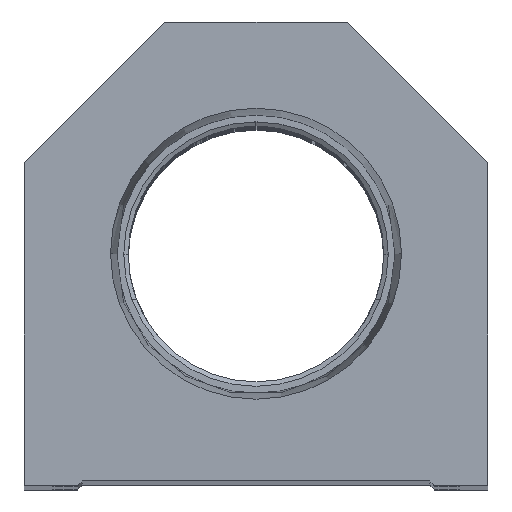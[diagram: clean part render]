
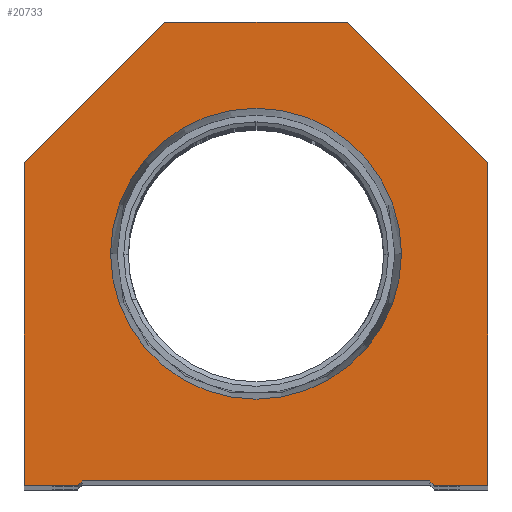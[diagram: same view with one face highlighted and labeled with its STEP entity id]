
A CAD part, top view. The second image highlights one B-rep face of the part: STEP entity #20733.
In plain terms, the highlighted planar face has unit normal (0, 0, 1).
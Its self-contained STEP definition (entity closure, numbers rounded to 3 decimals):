
#807 = EDGE_CURVE ( 'NONE', #5301, #23950, #7303, .T. ) ;
#1216 = LINE ( 'NONE', #7305, #10284 ) ;
#1510 = EDGE_CURVE ( 'NONE', #10335, #10839, #10589, .T. ) ;
#1544 = PLANE ( 'NONE',  #25420 ) ;
#1621 = VERTEX_POINT ( 'NONE', #14212 ) ;
#2461 = VECTOR ( 'NONE', #10367, 1000. ) ;
#2657 = EDGE_CURVE ( 'NONE', #7465, #14243, #6985, .T. ) ;
#3222 = VECTOR ( 'NONE', #13435, 1000. ) ;
#3355 = ORIENTED_EDGE ( 'NONE', *, *, #26588, .T. ) ;
#3455 = VECTOR ( 'NONE', #18558, 1000. ) ;
#3827 = LINE ( 'NONE', #23445, #2461 ) ;
#3898 = ORIENTED_EDGE ( 'NONE', *, *, #22685, .T. ) ;
#4384 = CIRCLE ( 'NONE', #25101, 15.947 ) ;
#5301 = VERTEX_POINT ( 'NONE', #22062 ) ;
#5329 = CARTESIAN_POINT ( 'NONE',  ( 0., 25.4, 0. ) ) ;
#5660 = DIRECTION ( 'NONE',  ( 1., 0., 0. ) ) ;
#5916 = CARTESIAN_POINT ( 'NONE',  ( 25.4, 0., 0. ) ) ;
#6215 = VERTEX_POINT ( 'NONE', #12214 ) ;
#6250 = CARTESIAN_POINT ( 'NONE',  ( 25.4, 0., 0. ) ) ;
#6736 = CARTESIAN_POINT ( 'NONE',  ( -25.4, 0., 0. ) ) ;
#6978 = ORIENTED_EDGE ( 'NONE', *, *, #20433, .T. ) ;
#6985 = CIRCLE ( 'NONE', #13724, 15.947 ) ;
#7013 = DIRECTION ( 'NONE',  ( 0., 0., 1. ) ) ;
#7217 = CARTESIAN_POINT ( 'NONE',  ( 19.05, 0., 0. ) ) ;
#7303 = LINE ( 'NONE', #10389, #14570 ) ;
#7305 = CARTESIAN_POINT ( 'NONE',  ( 25.4, 35.4, 0. ) ) ;
#7320 = CARTESIAN_POINT ( 'NONE',  ( 19.55, 0., 0. ) ) ;
#7465 = VERTEX_POINT ( 'NONE', #22618 ) ;
#7584 = DIRECTION ( 'NONE',  ( 1., 0., 0. ) ) ;
#8042 = DIRECTION ( 'NONE',  ( 0.707, 0.707, 0. ) ) ;
#8253 = DIRECTION ( 'NONE',  ( 0.707, -0.707, 0. ) ) ;
#8373 = LINE ( 'NONE', #16530, #15359 ) ;
#8830 = VERTEX_POINT ( 'NONE', #18012 ) ;
#9996 = LINE ( 'NONE', #16730, #3455 ) ;
#10238 = CARTESIAN_POINT ( 'NONE',  ( -15.947, 25.4, 0. ) ) ;
#10284 = VECTOR ( 'NONE', #22537, 1000. ) ;
#10335 = VERTEX_POINT ( 'NONE', #6250 ) ;
#10367 = DIRECTION ( 'NONE',  ( -1., 0., 0. ) ) ;
#10389 = CARTESIAN_POINT ( 'NONE',  ( 9.775, 9.775, 0. ) ) ;
#10589 = LINE ( 'NONE', #5916, #16412 ) ;
#10839 = VERTEX_POINT ( 'NONE', #16132 ) ;
#11003 = DIRECTION ( 'NONE',  ( 1., 0., 0. ) ) ;
#11336 = ORIENTED_EDGE ( 'NONE', *, *, #15289, .T. ) ;
#11802 = EDGE_CURVE ( 'NONE', #14243, #7465, #4384, .T. ) ;
#12214 = CARTESIAN_POINT ( 'NONE',  ( 10., 50.8, 0. ) ) ;
#12309 = DIRECTION ( 'NONE',  ( 0., 0., 1. ) ) ;
#12572 = FACE_OUTER_BOUND ( 'NONE', #12849, .T. ) ;
#12690 = DIRECTION ( 'NONE',  ( 0., 0., 1. ) ) ;
#12849 = EDGE_LOOP ( 'NONE', ( #22418, #14325, #23842, #25814, #16455, #21067, #3355, #6978, #11336, #3898 ) ) ;
#12958 = VECTOR ( 'NONE', #11003, 1000. ) ;
#13435 = DIRECTION ( 'NONE',  ( 1., 0., 0. ) ) ;
#13724 = AXIS2_PLACEMENT_3D ( 'NONE', #23404, #12690, #5660 ) ;
#13993 = CARTESIAN_POINT ( 'NONE',  ( -19.05, 0., 0. ) ) ;
#14212 = CARTESIAN_POINT ( 'NONE',  ( -19.05, 0.5, 0. ) ) ;
#14243 = VERTEX_POINT ( 'NONE', #10238 ) ;
#14325 = ORIENTED_EDGE ( 'NONE', *, *, #26315, .T. ) ;
#14515 = DIRECTION ( 'NONE',  ( 0., 1., 0. ) ) ;
#14570 = VECTOR ( 'NONE', #8253, 1000. ) ;
#15289 = EDGE_CURVE ( 'NONE', #22894, #20487, #8373, .T. ) ;
#15359 = VECTOR ( 'NONE', #23025, 1000. ) ;
#15994 = VERTEX_POINT ( 'NONE', #6736 ) ;
#16132 = CARTESIAN_POINT ( 'NONE',  ( 25.4, 35.4, 0. ) ) ;
#16412 = VECTOR ( 'NONE', #14515, 1000. ) ;
#16455 = ORIENTED_EDGE ( 'NONE', *, *, #17563, .T. ) ;
#16530 = CARTESIAN_POINT ( 'NONE',  ( -25.4, 35.4, 0. ) ) ;
#16643 = DIRECTION ( 'NONE',  ( 1., 0., 0. ) ) ;
#16730 = CARTESIAN_POINT ( 'NONE',  ( -25.4, 0., 0. ) ) ;
#17563 = EDGE_CURVE ( 'NONE', #23950, #10335, #24405, .T. ) ;
#18012 = CARTESIAN_POINT ( 'NONE',  ( -19.55, 0., 0. ) ) ;
#18412 = EDGE_CURVE ( 'NONE', #15994, #8830, #24698, .T. ) ;
#18558 = DIRECTION ( 'NONE',  ( 0., -1., 0. ) ) ;
#18559 = ORIENTED_EDGE ( 'NONE', *, *, #11802, .F. ) ;
#18902 = CARTESIAN_POINT ( 'NONE',  ( -10., 50.8, 0. ) ) ;
#19242 = VECTOR ( 'NONE', #8042, 1000. ) ;
#20433 = EDGE_CURVE ( 'NONE', #6215, #22894, #3827, .T. ) ;
#20487 = VERTEX_POINT ( 'NONE', #20883 ) ;
#20733 = ADVANCED_FACE ( 'NONE', ( #27747, #12572 ), #1544, .T. ) ;
#20883 = CARTESIAN_POINT ( 'NONE',  ( -25.4, 35.4, 0. ) ) ;
#20982 = LINE ( 'NONE', #27302, #19242 ) ;
#21067 = ORIENTED_EDGE ( 'NONE', *, *, #1510, .T. ) ;
#21812 = CARTESIAN_POINT ( 'NONE',  ( -19.05, 0.5, 0. ) ) ;
#22062 = CARTESIAN_POINT ( 'NONE',  ( 19.05, 0.5, 0. ) ) ;
#22418 = ORIENTED_EDGE ( 'NONE', *, *, #18412, .T. ) ;
#22537 = DIRECTION ( 'NONE',  ( -0.707, 0.707, 0. ) ) ;
#22592 = DIRECTION ( 'NONE',  ( 1., 0., 0. ) ) ;
#22618 = CARTESIAN_POINT ( 'NONE',  ( 15.947, 25.4, 0. ) ) ;
#22685 = EDGE_CURVE ( 'NONE', #20487, #15994, #9996, .T. ) ;
#22894 = VERTEX_POINT ( 'NONE', #18902 ) ;
#23025 = DIRECTION ( 'NONE',  ( -0.707, -0.707, 0. ) ) ;
#23078 = VECTOR ( 'NONE', #22592, 1000. ) ;
#23404 = CARTESIAN_POINT ( 'NONE',  ( 0., 25.4, 0. ) ) ;
#23445 = CARTESIAN_POINT ( 'NONE',  ( 10., 50.8, 0. ) ) ;
#23512 = EDGE_LOOP ( 'NONE', ( #24125, #18559 ) ) ;
#23842 = ORIENTED_EDGE ( 'NONE', *, *, #26377, .T. ) ;
#23950 = VERTEX_POINT ( 'NONE', #7320 ) ;
#24125 = ORIENTED_EDGE ( 'NONE', *, *, #2657, .F. ) ;
#24405 = LINE ( 'NONE', #7217, #3222 ) ;
#24698 = LINE ( 'NONE', #13993, #23078 ) ;
#25101 = AXIS2_PLACEMENT_3D ( 'NONE', #5329, #7013, #7584 ) ;
#25420 = AXIS2_PLACEMENT_3D ( 'NONE', #27463, #12309, #16643 ) ;
#25814 = ORIENTED_EDGE ( 'NONE', *, *, #807, .T. ) ;
#26315 = EDGE_CURVE ( 'NONE', #8830, #1621, #20982, .T. ) ;
#26377 = EDGE_CURVE ( 'NONE', #1621, #5301, #27727, .T. ) ;
#26588 = EDGE_CURVE ( 'NONE', #10839, #6215, #1216, .T. ) ;
#27302 = CARTESIAN_POINT ( 'NONE',  ( -9.775, 9.775, 0. ) ) ;
#27463 = CARTESIAN_POINT ( 'NONE',  ( 0., 0., 0. ) ) ;
#27727 = LINE ( 'NONE', #21812, #12958 ) ;
#27747 = FACE_BOUND ( 'NONE', #23512, .T. ) ;
